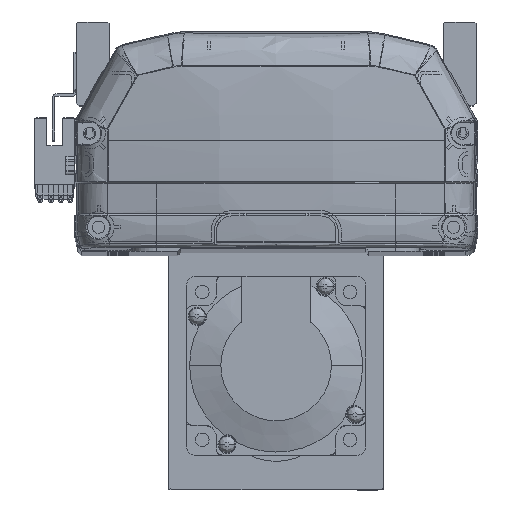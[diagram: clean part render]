
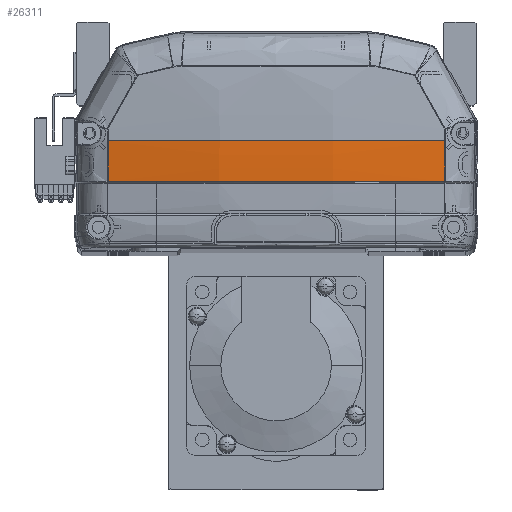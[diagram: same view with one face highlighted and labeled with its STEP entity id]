
A CAD part, top view. The second image highlights one B-rep face of the part: STEP entity #26311.
In plain terms, the highlighted free-form (B-spline) face has degree [3, 3] with [4, 4] control points.
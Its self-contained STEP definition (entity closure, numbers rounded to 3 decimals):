
#2402 = CARTESIAN_POINT ( 'NONE',  ( 8.363, 22.225, -9.48 ) ) ;
#3049 = VERTEX_POINT ( 'NONE', #48460 ) ;
#4652 = AXIS2_PLACEMENT_3D ( 'NONE', #18932, #27878, #14904 ) ;
#4869 = CARTESIAN_POINT ( 'NONE',  ( 57.335, 22.148, -4.7 ) ) ;
#6485 = CARTESIAN_POINT ( 'NONE',  ( 38.071, 22.225, -7.566 ) ) ;
#6698 = CARTESIAN_POINT ( 'NONE',  ( -19.28, 22.225, -9.565 ) ) ;
#6905 = CARTESIAN_POINT ( 'NONE',  ( 19.121, 22.225, -9.064 ) ) ;
#8756 = CARTESIAN_POINT ( 'NONE',  ( -57.335, 22.148, -4.7 ) ) ;
#8955 = CARTESIAN_POINT ( 'NONE',  ( 19.295, 31.274, -11.535 ) ) ;
#9674 = CARTESIAN_POINT ( 'NONE',  ( -56.661, 22.225, -4.818 ) ) ;
#10591 = CIRCLE ( 'NONE', #4652, 340.733 ) ;
#11002 = CARTESIAN_POINT ( 'NONE',  ( 56.661, 22.225, -4.818 ) ) ;
#11379 = CARTESIAN_POINT ( 'NONE',  ( 2.357, 22.225, -9.562 ) ) ;
#11402 = CARTESIAN_POINT ( 'NONE',  ( 56.661, 22.225, -4.818 ) ) ;
#11686 = CARTESIAN_POINT ( 'NONE',  ( -56.652, 26.814, -5.045 ) ) ;
#13464 = CARTESIAN_POINT ( 'NONE',  ( -19.295, 36., -11.535 ) ) ;
#14904 = DIRECTION ( 'NONE',  ( 0., 0., -1. ) ) ;
#15681 = CARTESIAN_POINT ( 'NONE',  ( 23.877, 22.225, -8.763 ) ) ;
#17518 = CARTESIAN_POINT ( 'NONE',  ( 19.295, 21.828, -11.186 ) ) ;
#17541 = DIRECTION ( 'NONE',  ( -1., 0., 0. ) ) ;
#17699 = CARTESIAN_POINT ( 'NONE',  ( -19.295, 21.828, -11.186 ) ) ;
#18932 = CARTESIAN_POINT ( 'NONE',  ( 0., 36., 330.833 ) ) ;
#19643 = AXIS2_PLACEMENT_3D ( 'NONE', #57100, #52503, #17541 ) ;
#20113 = CARTESIAN_POINT ( 'NONE',  ( -38.235, 22.225, -7.93 ) ) ;
#20263 = CARTESIAN_POINT ( 'NONE',  ( 56.647, 36., -5.158 ) ) ;
#21093 = CARTESIAN_POINT ( 'NONE',  ( 56.647, 35.969, -5.158 ) ) ;
#21817 = B_SPLINE_CURVE_WITH_KNOTS ( 'NONE', 3,
 ( #55358, #38270, #11686, #42700 ),
 .UNSPECIFIED., .F., .F.,
 ( 4, 4 ),
 ( 0., 1. ),
 .UNSPECIFIED. ) ;
#22538 = CARTESIAN_POINT ( 'NONE',  ( 57.335, 31.38, -5.042 ) ) ;
#24190 = CARTESIAN_POINT ( 'NONE',  ( 47.432, 22.225, -6.377 ) ) ;
#25277 = EDGE_CURVE ( 'NONE', #31007, #30954, #41650, .T. ) ;
#25330 = CARTESIAN_POINT ( 'NONE',  ( 56.647, 31.387, -5.158 ) ) ;
#25931 = ORIENTED_EDGE ( 'NONE', *, *, #25277, .T. ) ;
#26311 = ADVANCED_FACE ( 'NONE', ( #46115 ), #36000, .T. ) ;
#27878 = DIRECTION ( 'NONE',  ( 0., 1., 0. ) ) ;
#29109 = ORIENTED_EDGE ( 'NONE', *, *, #46666, .F. ) ;
#29853 = VERTEX_POINT ( 'NONE', #20263 ) ;
#30954 = VERTEX_POINT ( 'NONE', #9674 ) ;
#31007 = VERTEX_POINT ( 'NONE', #37618 ) ;
#31587 = ORIENTED_EDGE ( 'NONE', *, *, #35776, .F. ) ;
#35776 = EDGE_CURVE ( 'NONE', #3049, #30954, #21817, .T. ) ;
#35904 = CARTESIAN_POINT ( 'NONE',  ( 19.295, 26.549, -11.419 ) ) ;
#36000 =( BOUNDED_SURFACE ( )  B_SPLINE_SURFACE ( 3, 3, ( 
 ( #4869, #53238, #22538, #44864 ),
 ( #17518, #35904, #8955, #44494 ),
 ( #17699, #48751, #39997, #13464 ),
 ( #8756, #36107, #57647, #53802 ) ),
 .UNSPECIFIED., .F., .F., .F. ) 
 B_SPLINE_SURFACE_WITH_KNOTS ( ( 4, 4 ),
 ( 4, 4 ),
 ( 0., 1. ),
 ( 0., 1. ),
 .UNSPECIFIED. ) 
 GEOMETRIC_REPRESENTATION_ITEM ( )  RATIONAL_B_SPLINE_SURFACE ( (
 ( 1., 1., 1., 1.),
 ( 0.99, 0.99, 0.99, 0.99),
 ( 0.99, 0.99, 0.99, 0.99),
 ( 1., 1., 1., 1.) ) ) 
 REPRESENTATION_ITEM ( '' )  SURFACE ( )  );
#36107 = CARTESIAN_POINT ( 'NONE',  ( -57.335, 26.762, -4.928 ) ) ;
#37219 = EDGE_LOOP ( 'NONE', ( #37302, #29109, #37372, #25931, #31587 ) ) ;
#37302 = ORIENTED_EDGE ( 'NONE', *, *, #56901, .F. ) ;
#37372 = ORIENTED_EDGE ( 'NONE', *, *, #45892, .F. ) ;
#37618 = CARTESIAN_POINT ( 'NONE',  ( 56.661, 22.225, -4.818 ) ) ;
#38270 = CARTESIAN_POINT ( 'NONE',  ( -56.647, 31.405, -5.158 ) ) ;
#39044 = VERTEX_POINT ( 'NONE', #50119 ) ;
#39997 = CARTESIAN_POINT ( 'NONE',  ( -19.295, 31.274, -11.535 ) ) ;
#41650 = B_SPLINE_CURVE_WITH_KNOTS ( 'NONE', 3,
 ( #11002, #24190, #6485, #15681, #6905, #42590, #2402, #46901, #11379, #42413, #6698, #20113, #42008 ),
 .UNSPECIFIED., .F., .F.,
 ( 4, 2, 2, 1, 2, 2, 4 ),
 ( 0., 0.25, 0.375, 0.438, 0.469, 0.5, 1. ),
 .UNSPECIFIED. ) ;
#42008 = CARTESIAN_POINT ( 'NONE',  ( -56.661, 22.225, -4.818 ) ) ;
#42413 = CARTESIAN_POINT ( 'NONE',  ( 1.152, 22.225, -9.568 ) ) ;
#42590 = CARTESIAN_POINT ( 'NONE',  ( 11.954, 22.225, -9.367 ) ) ;
#42700 = CARTESIAN_POINT ( 'NONE',  ( -56.661, 22.225, -4.818 ) ) ;
#42731 = B_SPLINE_CURVE_WITH_KNOTS ( 'NONE', 3,
 ( #11402, #55836, #25330, #21093 ),
 .UNSPECIFIED., .F., .F.,
 ( 4, 4 ),
 ( 0., 1. ),
 .UNSPECIFIED. ) ;
#44494 = CARTESIAN_POINT ( 'NONE',  ( 19.295, 36., -11.535 ) ) ;
#44864 = CARTESIAN_POINT ( 'NONE',  ( 57.335, 36., -5.042 ) ) ;
#45892 = EDGE_CURVE ( 'NONE', #31007, #39044, #42731, .T. ) ;
#46115 = FACE_OUTER_BOUND ( 'NONE', #37219, .T. ) ;
#46666 = EDGE_CURVE ( 'NONE', #39044, #29853, #49797, .T. ) ;
#46901 = CARTESIAN_POINT ( 'NONE',  ( 4.761, 22.225, -9.537 ) ) ;
#48460 = CARTESIAN_POINT ( 'NONE',  ( -56.647, 36., -5.158 ) ) ;
#48751 = CARTESIAN_POINT ( 'NONE',  ( -19.295, 26.549, -11.419 ) ) ;
#49797 = CIRCLE ( 'NONE', #19643, 6395.966 ) ;
#50119 = CARTESIAN_POINT ( 'NONE',  ( 56.647, 35.969, -5.158 ) ) ;
#52503 = DIRECTION ( 'NONE',  ( 0., 0., -1. ) ) ;
#53238 = CARTESIAN_POINT ( 'NONE',  ( 57.335, 26.762, -4.928 ) ) ;
#53802 = CARTESIAN_POINT ( 'NONE',  ( -57.335, 36., -5.042 ) ) ;
#55358 = CARTESIAN_POINT ( 'NONE',  ( -56.647, 36., -5.158 ) ) ;
#55836 = CARTESIAN_POINT ( 'NONE',  ( 56.652, 26.806, -5.044 ) ) ;
#56901 = EDGE_CURVE ( 'NONE', #29853, #3049, #10591, .T. ) ;
#57100 = CARTESIAN_POINT ( 'NONE',  ( 6452.613, 35.969, -5.158 ) ) ;
#57647 = CARTESIAN_POINT ( 'NONE',  ( -57.335, 31.38, -5.042 ) ) ;
